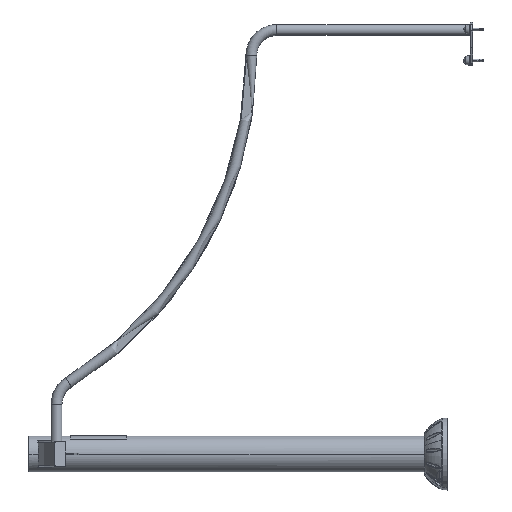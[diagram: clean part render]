
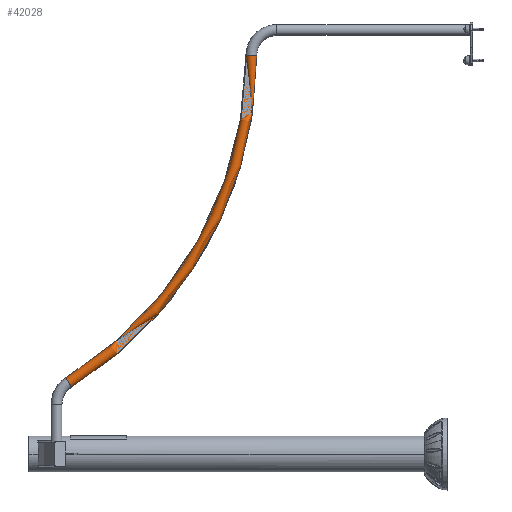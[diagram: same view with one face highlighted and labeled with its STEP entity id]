
A CAD part, left-side view. The second image highlights one B-rep face of the part: STEP entity #42028.
In plain terms, the highlighted toroidal (fillet/blend) face has major radius 1500 mm and minor radius 21.2 mm.
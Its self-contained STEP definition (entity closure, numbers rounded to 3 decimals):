
#1975 = ORIENTED_EDGE ( 'NONE', *, *, #79116, .T. ) ;
#2423 = DIRECTION ( 'NONE',  ( 1., 0., 0. ) ) ;
#3582 = EDGE_CURVE ( 'NONE', #8742, #113933, #52536, .T. ) ;
#4230 = CIRCLE ( 'NONE', #62385, 21.2 ) ;
#6184 = VERTEX_POINT ( 'NONE', #94286 ) ;
#8742 = VERTEX_POINT ( 'NONE', #78681 ) ;
#9501 = ORIENTED_EDGE ( 'NONE', *, *, #100758, .F. ) ;
#11877 = DIRECTION ( 'NONE',  ( 1., 0., 0. ) ) ;
#18108 = DIRECTION ( 'NONE',  ( 1., 0., 0. ) ) ;
#23261 = ORIENTED_EDGE ( 'NONE', *, *, #59698, .T. ) ;
#25403 = CARTESIAN_POINT ( 'NONE',  ( 1510., 2583.686, 0. ) ) ;
#33856 = EDGE_LOOP ( 'NONE', ( #1975, #23261, #36423, #9501 ) ) ;
#34427 = DIRECTION ( 'NONE',  ( 1., 0., 0. ) ) ;
#36423 = ORIENTED_EDGE ( 'NONE', *, *, #3582, .F. ) ;
#37183 = DIRECTION ( 'NONE',  ( 0.524, -0.852, 0. ) ) ;
#42028 = ADVANCED_FACE ( 'NONE', ( #66230 ), #113979, .T. ) ;
#51582 = CARTESIAN_POINT ( 'NONE',  ( 214.66, 1786.1, 0. ) ) ;
#52536 = CIRCLE ( 'NONE', #102946, 21.2 ) ;
#53820 = CARTESIAN_POINT ( 'NONE',  ( 1510., 1062.486, 0. ) ) ;
#53892 = CARTESIAN_POINT ( 'NONE',  ( 1510., 2583.686, 0. ) ) ;
#56263 = DIRECTION ( 'NONE',  ( 0., 0., 1. ) ) ;
#59698 = EDGE_CURVE ( 'NONE', #75311, #113933, #115741, .T. ) ;
#62385 = AXIS2_PLACEMENT_3D ( 'NONE', #90871, #37183, #99933 ) ;
#65708 = CARTESIAN_POINT ( 'NONE',  ( 1510., 1083.686, 0. ) ) ;
#66230 = FACE_OUTER_BOUND ( 'NONE', #33856, .T. ) ;
#71907 = DIRECTION ( 'NONE',  ( 0., 0., 1. ) ) ;
#74701 = DIRECTION ( 'NONE',  ( 0., 0., -1. ) ) ;
#75311 = VERTEX_POINT ( 'NONE', #51582 ) ;
#78681 = CARTESIAN_POINT ( 'NONE',  ( 1510., 1104.886, 0. ) ) ;
#79116 = EDGE_CURVE ( 'NONE', #6184, #75311, #4230, .T. ) ;
#88126 = DIRECTION ( 'NONE',  ( 0., 0., 1. ) ) ;
#89647 = AXIS2_PLACEMENT_3D ( 'NONE', #53892, #71907, #18108 ) ;
#90871 = CARTESIAN_POINT ( 'NONE',  ( 232.712, 1797.216, 0. ) ) ;
#94286 = CARTESIAN_POINT ( 'NONE',  ( 250.764, 1808.331, 0. ) ) ;
#99933 = DIRECTION ( 'NONE',  ( 0., 0., -1. ) ) ;
#100758 = EDGE_CURVE ( 'NONE', #6184, #8742, #102759, .T. ) ;
#102759 = CIRCLE ( 'NONE', #113195, 1478.8 ) ;
#102946 = AXIS2_PLACEMENT_3D ( 'NONE', #65708, #11877, #74701 ) ;
#109990 = CARTESIAN_POINT ( 'NONE',  ( 1510., 2583.686, 0. ) ) ;
#113025 = AXIS2_PLACEMENT_3D ( 'NONE', #25403, #88126, #34427 ) ;
#113195 = AXIS2_PLACEMENT_3D ( 'NONE', #109990, #56263, #2423 ) ;
#113933 = VERTEX_POINT ( 'NONE', #53820 ) ;
#113979 = TOROIDAL_SURFACE ( 'NONE', #89647, 1500., 21.2 ) ;
#115741 = CIRCLE ( 'NONE', #113025, 1521.2 ) ;
